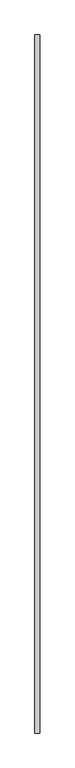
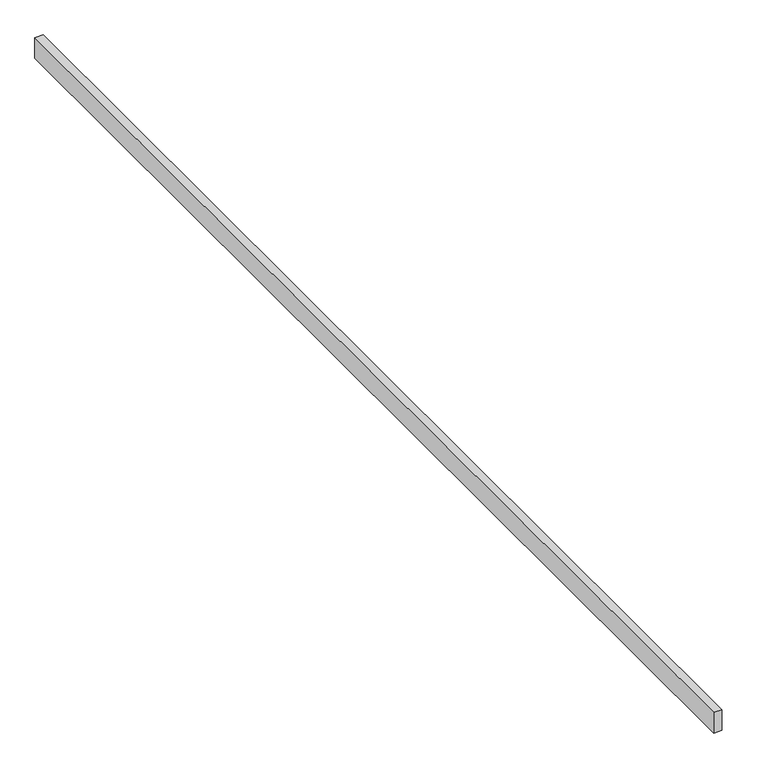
"""IFC4 building model written with IfcOpenShell, lengths in millimetres: proxy geometry, Modelos genéricos 121 : Modelos genéricos 1."""

from ifc_helpers import new_model, si_unit, frame, origin, place, context, project, spatial, polyline, outline, extrude, source, transform, mapped, element, save


def generic_models_e7d75169(model_context):
    return source(origin(), model_context, "Body", "SweptSolid", [
        extrude(outline(polyline([(9223.4472467, 6228.6238165), (9283.4472467, 6228.6238165), (9283.4472467, -2331.3761835), (9223.4472467, -2331.3761835), (9223.4472467, 6228.6238165)])), frame((0.0, 0.0, 3000.0), z_axis=(0.0, 0.0, 1.0), x_axis=(1.0, 0.0, 0.0)), (0.0, 0.0, 1.0), 160.0),
    ])


if __name__ == "__main__":
    model = new_model("IFC4")
    model_context = context("Model", 3, world=origin())
    ifc_project = project(units=[si_unit("LENGTHUNIT", "METRE", prefix="MILLI")], contexts=[model_context])
    site = spatial("IfcSite", under=ifc_project)
    building = spatial("IfcBuilding", under=site)
    placement = place(None, origin())
    generic_models_shape = generic_models_e7d75169(model_context)
    element("IfcBuildingElementProxy", 1, Name="Modelos genéricos 121 : Modelos genéricos 1", ObjectType="Modelos genéricos 121 : Modelos genéricos 1", at=placement, inside=building, context=model_context, shape_type="MappedRepresentation", body=[
        mapped(generic_models_shape, transform((0.0, 0.0, 0.0), x_axis=(1.0, 0.0, 0.0), y_axis=(0.0, 1.0, 0.0), z_axis=(0.0, 0.0, 1.0))),
    ])
    save(model, "model.ifc")
